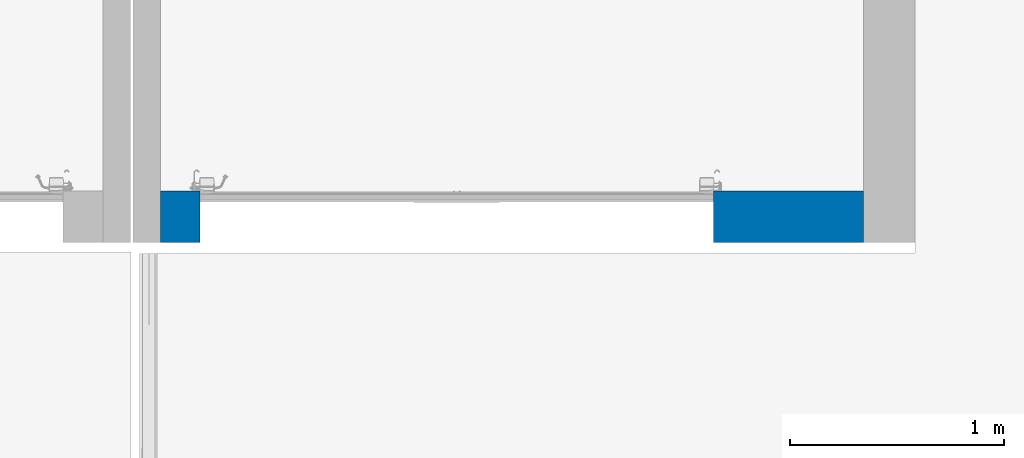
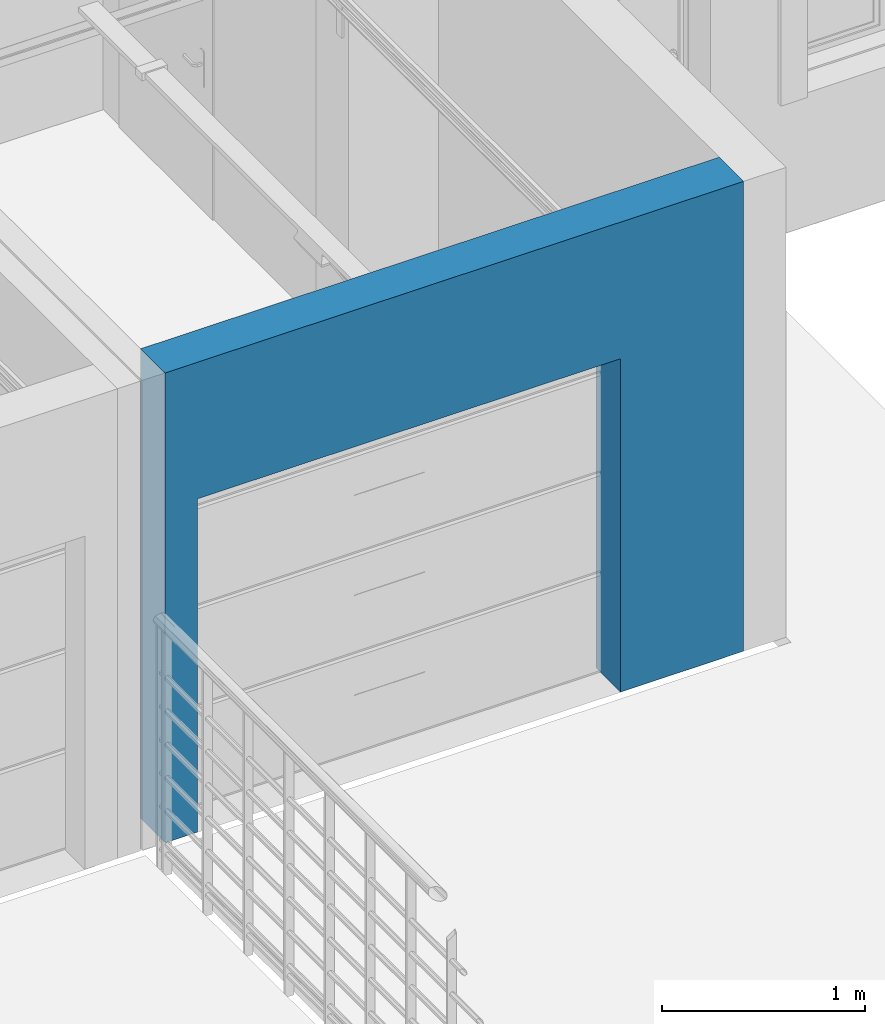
# One storey, part 6 of 30: 1 wall, 1 opening.
"""IFC2X3 building model written with IfcOpenShell, lengths in metres."""

import ifcopenshell
import ifcopenshell.guid

model = None  # the IFC model being written
_history = None  # IfcOwnerHistory: only IFC2X3 demands one
_inside = {}  # id of a spatial element -> (the spatial element, [elements in it])
_under = {}  # id of a project, library or spatial element -> (it, [spatial elements below it])
_declared = {}  # id of a project -> (the project, [libraries it declares])
_typed = {}  # id of a type object -> (the type object, [elements of that type])
_made_of = {}  # id of a material, layer set ... -> (it, [elements and type objects made of it])


def new_model(schema):
    """Start an empty IFC model of exactly this schema.

    Asked for "IFC4X3", IfcOpenShell would pick the latest addendum, in which some entities
    have other attributes; the version numbers below select the first issue.
    IFC2X3 requires an IfcOwnerHistory on every rooted entity: one is made here for all.
    """
    global model, _history
    if schema == "IFC4X3":
        model = ifcopenshell.file(schema_version=(4, 3, 0, 0))
    else:
        model = ifcopenshell.file(schema=schema)
    _inside.clear()
    _under.clear()
    _declared.clear()
    _typed.clear()
    _made_of.clear()
    _history = None
    if model.schema == "IFC2X3":
        org = make("IfcOrganization", Name="unknown")
        user = make(
            "IfcPersonAndOrganization",
            ThePerson=make("IfcPerson", FamilyName="unknown"),
            TheOrganization=org,
        )
        app = make(
            "IfcApplication",
            ApplicationDeveloper=org,
            Version="unknown",
            ApplicationFullName="unknown",
            ApplicationIdentifier="unknown",
        )
        _history = make(
            "IfcOwnerHistory",
            OwningUser=user,
            OwningApplication=app,
            ChangeAction="ADDED",
            CreationDate=0,
        )
    return model


def make(cls, **values):
    """One entity of the class cls with the attributes given. An attribute that is None is left unset."""
    return model.create_entity(
        cls, **{name: value for name, value in values.items() if value is not None}
    )


def entity(cls, *values):
    """Any entity or typed value of the class cls, its attributes in the order of the schema. None: left unset."""
    e = model.create_entity(cls)
    for i, value in enumerate(values):
        if value is not None:
            e[i] = value
    return e


def rooted(cls, **values):
    """An entity with a GlobalId (a new one), such as an element, a storey or a relation."""
    return make(cls, GlobalId=ifcopenshell.guid.new(), OwnerHistory=_history, **values)


def si_unit(unit_type, name, prefix=None):
    """IfcSIUnit, for example si_unit("LENGTHUNIT", "METRE", prefix="MILLI")."""
    return make("IfcSIUnit", UnitType=unit_type, Prefix=prefix, Name=name)


def converted_unit(unit_type, name, factor, base, dimensions=None, offset=None):
    """IfcConversionBasedUnit, such as the inch: factor (a typed value) times the base unit."""
    return make(
        "IfcConversionBasedUnit"
        if offset is None
        else "IfcConversionBasedUnitWithOffset",
        ConversionOffset=offset,
        Dimensions=None
        if dimensions is None
        else entity("IfcDimensionalExponents", *dimensions),
        UnitType=unit_type,
        Name=name,
        ConversionFactor=make(
            "IfcMeasureWithUnit", ValueComponent=factor, UnitComponent=base
        ),
    )


def derived_unit(unit_type, elements):
    """IfcDerivedUnit: a product of units, each with its exponent."""
    return make(
        "IfcDerivedUnit",
        Elements=[
            make("IfcDerivedUnitElement", Unit=unit, Exponent=power)
            for unit, power in elements
        ],
        UnitType=unit_type,
    )


def assignment(units):
    """IfcUnitAssignment: the units of a project."""
    return None if units is None else make("IfcUnitAssignment", Units=units)


def point(xyz):
    """IfcCartesianPoint."""
    return None if xyz is None else make("IfcCartesianPoint", Coordinates=xyz)


def direction(xyz):
    """IfcDirection."""
    return None if xyz is None else make("IfcDirection", DirectionRatios=xyz)


def frame(location, z_axis=None, x_axis=None):
    """IfcAxis2Placement3D, a coordinate frame: its origin and axes. An axis left out is left unset."""
    return make(
        "IfcAxis2Placement3D",
        Location=point(location),
        Axis=direction(z_axis),
        RefDirection=direction(x_axis),
    )


def frame_2d(location, x_axis=None):
    """IfcAxis2Placement2D, a coordinate frame in the plane: its origin and x axis."""
    return make(
        "IfcAxis2Placement2D", Location=point(location), RefDirection=direction(x_axis)
    )


def origin():
    """The frame at (0, 0, 0) with its axes left unset."""
    return frame((0.0, 0.0, 0.0))


def place(relative_to, where):
    """IfcLocalPlacement: puts the frame where relative to a parent placement (None: the world)."""
    return make(
        "IfcLocalPlacement", PlacementRelTo=relative_to, RelativePlacement=where
    )


def context(
    kind, dimensions, precision=None, world=None, true_north=None, identifier=None
):
    """IfcGeometricRepresentationContext, for example the 3D "Model" context."""
    return make(
        "IfcGeometricRepresentationContext",
        ContextIdentifier=identifier,
        ContextType=kind,
        CoordinateSpaceDimension=dimensions,
        Precision=precision,
        WorldCoordinateSystem=world,
        TrueNorth=true_north,
    )


def subcontext(parent, identifier, kind, view, scale=None):
    """IfcGeometricRepresentationSubContext, for example "Body" below "Model"."""
    return make(
        "IfcGeometricRepresentationSubContext",
        ContextIdentifier=identifier,
        ContextType=kind,
        ParentContext=parent,
        TargetScale=scale,
        TargetView=view,
    )


def project(units=None, contexts=None):
    """IfcProject with its units and contexts."""
    return rooted(
        "IfcProject",
        Name="project",
        RepresentationContexts=contexts,
        UnitsInContext=assignment(units),
    )


def spatial(cls, under=None, at=None, **own):
    """A site, building, storey or space (cls), placed at a placement, below another one or the project."""
    s = rooted(cls, ObjectPlacement=at, **own)
    if under is not None:
        _under.setdefault(under.id(), (under, []))[1].append(s)
    return s


def profile(cls, at=None, kind="AREA", **sizes):
    """A parametric profile (cls). Its sizes go by their IFC names, for example OverallWidth=200.0."""
    return make(cls, ProfileType=kind, Position=at, **sizes)


def rectangle(**sizes):
    """IfcRectangleProfileDef."""
    return profile("IfcRectangleProfileDef", **sizes)


def extrude(swept, where, along, depth):
    """IfcExtrudedAreaSolid: the profile swept, set in the frame where, extruded along a direction by depth."""
    return make(
        "IfcExtrudedAreaSolid",
        SweptArea=swept,
        Position=where,
        ExtrudedDirection=direction(along),
        Depth=depth,
    )


def shape(context_of_items, identifier, shape_type, items):
    """IfcShapeRepresentation: the items that make up one representation, for example the "Body"."""
    return make(
        "IfcShapeRepresentation",
        ContextOfItems=context_of_items,
        RepresentationIdentifier=identifier,
        RepresentationType=shape_type,
        Items=items,
    )


def material(Name=None, Category=None):
    """IfcMaterial."""
    return make("IfcMaterial", Name=Name, Category=Category)


def layer(
    of_material, thickness, ventilated=None, Name=None, Category=None, Priority=None
):
    """IfcMaterialLayer: one layer of a wall or slab, of a material (None: an air gap)."""
    return make(
        "IfcMaterialLayer",
        Material=of_material,
        LayerThickness=thickness,
        IsVentilated=ventilated,
        Name=Name,
        Category=Category,
        Priority=Priority,
    )


def layer_set(layers, Name=None):
    """IfcMaterialLayerSet."""
    return make("IfcMaterialLayerSet", MaterialLayers=layers, LayerSetName=Name)


def layer_usage(for_layer_set, set_direction, sense, offset, extent=None):
    """IfcMaterialLayerSetUsage: how a layer set lies in its element."""
    return make(
        "IfcMaterialLayerSetUsage",
        ForLayerSet=for_layer_set,
        LayerSetDirection=set_direction,
        DirectionSense=sense,
        OffsetFromReferenceLine=offset,
        ReferenceExtent=extent,
    )


def made_of(thing, what):
    """Note that an element or type object is made of a material, layer set ...; save() writes the relation."""
    if what is not None:
        _made_of.setdefault(what.id(), (what, []))[1].append(thing)
    return thing


def type_object(cls, material=None, **own):
    """A type object (cls), such as IfcWallType, which elements share."""
    return made_of(rooted(cls, **own), material)


def element(
    cls,
    number,
    at=None,
    inside=None,
    cuts=None,
    type_object=None,
    material=None,
    context=None,
    identifier="Body",
    shape_type=None,
    held_by="IfcProductDefinitionShape",
    body=None,
    shapes=None,
    **own,
):
    """One element of the class cls, such as IfcWall. Its Tag is "e" and its number.

    at: its placement. inside: the storey or other place that contains it. cuts: it is an
    opening in that element (IfcRelVoidsElement). A single representation is given by context,
    identifier, shape_type and body (its items); several are given by shapes. held_by: the class
    of the entity that holds the representations. save() writes the other relations.
    """
    e = rooted(cls, Tag="e%d" % number, ObjectPlacement=at, **own)
    if body is not None:
        shapes = [shape(context, identifier, shape_type, body)]
    if shapes is not None:
        e.Representation = make(held_by, Representations=shapes)
    if inside is not None:
        _inside.setdefault(inside.id(), (inside, []))[1].append(e)
    if cuts is not None:
        rooted(
            "IfcRelVoidsElement", RelatingBuildingElement=cuts, RelatedOpeningElement=e
        )
    if type_object is not None:
        _typed.setdefault(type_object.id(), (type_object, []))[1].append(e)
    return made_of(e, material)


def aggregate(whole, parts):
    """IfcRelAggregates: a whole, such as a stair, and the parts it consists of."""
    return rooted("IfcRelAggregates", RelatingObject=whole, RelatedObjects=parts)


def save(model, path):
    """Write the relations noted so far, then the file.

    IfcRelAggregates (storeys below a building ...), IfcRelContainedInSpatialStructure (elements
    in a storey), IfcRelDefinesByType, IfcRelAssociatesMaterial and IfcRelDeclares: one each for
    every whole, place, type object, material and project.
    """
    for whole, parts in _under.values():
        aggregate(whole, parts)
    for where, things in _inside.values():
        rooted(
            "IfcRelContainedInSpatialStructure",
            RelatedElements=things,
            RelatingStructure=where,
        )
    for kind, things in _typed.values():
        rooted("IfcRelDefinesByType", RelatedObjects=things, RelatingType=kind)
    for what, things in _made_of.values():
        rooted("IfcRelAssociatesMaterial", RelatedObjects=things, RelatingMaterial=what)
    for by, libraries in _declared.values():
        rooted("IfcRelDeclares", RelatingContext=by, RelatedDefinitions=libraries)
    model.write(path)


model = new_model("IFC2X3")

# Units and contexts
model_context = context("Model", 3, precision=1e-05, world=origin(), true_north=direction((6.12303176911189e-17, 1.0)))
body_context = subcontext(model_context, "Body", "Model", "MODEL_VIEW")
ifc_project = project(units=[si_unit("LENGTHUNIT", "METRE"), si_unit("AREAUNIT", "SQUARE_METRE"), si_unit("VOLUMEUNIT", "CUBIC_METRE"), converted_unit("PLANEANGLEUNIT", "DEGREE", entity("IfcRatioMeasure", 0.0174532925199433), si_unit("PLANEANGLEUNIT", "RADIAN"), dimensions=[0, 0, 0, 0, 0, 0, 0]), si_unit("MASSUNIT", "GRAM", prefix="KILO"), derived_unit("MASSDENSITYUNIT", [(si_unit("MASSUNIT", "GRAM", prefix="KILO"), 1), (si_unit("LENGTHUNIT", "METRE"), -3)]), si_unit("TIMEUNIT", "SECOND"), si_unit("FREQUENCYUNIT", "HERTZ"), si_unit("THERMODYNAMICTEMPERATUREUNIT", "DEGREE_CELSIUS"), derived_unit("THERMALTRANSMITTANCEUNIT", [(si_unit("MASSUNIT", "GRAM", prefix="KILO"), 1), (si_unit("THERMODYNAMICTEMPERATUREUNIT", "KELVIN"), -1), (si_unit("TIMEUNIT", "SECOND"), -3)]), derived_unit("VOLUMETRICFLOWRATEUNIT", [(si_unit("LENGTHUNIT", "METRE"), 3), (si_unit("TIMEUNIT", "SECOND"), -1)]), si_unit("ELECTRICCURRENTUNIT", "AMPERE"), si_unit("ELECTRICVOLTAGEUNIT", "VOLT"), si_unit("POWERUNIT", "WATT"), si_unit("FORCEUNIT", "NEWTON", prefix="KILO"), si_unit("ILLUMINANCEUNIT", "LUX"), si_unit("LUMINOUSFLUXUNIT", "LUMEN"), si_unit("LUMINOUSINTENSITYUNIT", "CANDELA"), derived_unit("USERDEFINED", [(si_unit("MASSUNIT", "GRAM", prefix="KILO"), -1), (si_unit("LENGTHUNIT", "METRE"), -2), (si_unit("TIMEUNIT", "SECOND"), 3), (si_unit("LUMINOUSFLUXUNIT", "LUMEN"), 1)]), derived_unit("LINEARVELOCITYUNIT", [(si_unit("LENGTHUNIT", "METRE"), 1), (si_unit("TIMEUNIT", "SECOND"), -1)]), si_unit("PRESSUREUNIT", "PASCAL"), derived_unit("USERDEFINED", [(si_unit("LENGTHUNIT", "METRE"), -2), (si_unit("MASSUNIT", "GRAM", prefix="KILO"), 1), (si_unit("TIMEUNIT", "SECOND"), -2)])], contexts=[model_context])

# Site, building, storey
site_placement = place(None, origin())
site = spatial("IfcSite", under=ifc_project, at=site_placement, Name="Surface", CompositionType="ELEMENT")
building_placement = place(site_placement, origin())
building = spatial("IfcBuilding", under=site, at=building_placement, CompositionType="ELEMENT")
storey_placement = place(building_placement, origin())
storey = spatial("IfcBuildingStorey", under=building, at=storey_placement, Name="Plan des fondations  Maisons 1 et 2", CompositionType="ELEMENT", Elevation=0.0)

# Wall, opening
ifc_material_1 = material(Name="Enduit  gris")
ifc_layer_1 = layer(ifc_material_1, 0.02)
ifc_material_2 = material(Name="Parpaing")
ifc_layer_2 = layer(ifc_material_2, 0.2)
ifc_layer_3 = layer(ifc_material_1, 0.02)
ifc_layer_set = layer_set([ifc_layer_1, ifc_layer_2, ifc_layer_3], Name="Mur de base:Ext. Parpaing 2 + 20 + 2 gris")
ifc_layer_usage = layer_usage(ifc_layer_set, "AXIS2", "NEGATIVE", 0.12)
wall_type = type_object("IfcWallType", Name="Mur de base:Ext. Parpaing 2 + 20 + 2 gris", PredefinedType="STANDARD", material=ifc_layer_set)
wall_placement = place(storey_placement, frame((68.9696263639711, 77.0077566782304, 0.0)))
wall = element("IfcWallStandardCase", 1, at=wall_placement, inside=storey, type_object=wall_type, material=ifc_layer_usage, Name="Mur de base:Ext. Parpaing 2 + 20 + 2 gris", ObjectType="Mur de base:Ext. Parpaing 2 + 20 + 2 gris", context=body_context, shape_type="SweptSolid", body=[
    extrude(rectangle(XDim=3.28499999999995, YDim=0.239999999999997, at=frame_2d((1.64249999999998, 0.0), x_axis=(-1.0, 0.0))), origin(), (0.0, 0.0, 1.0), 2.82),
])
opening_placement = place(wall_placement, frame((0.185000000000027, -0.12, 0.0)))
element("IfcOpeningElement", 2, at=opening_placement, cuts=wall, Name="Landscaping-Gates- La Toulousaine-La_Toulousaine-Porte_de_garage_HARMONIE_ESQUIF:Landscaping-Gates- La Toulousaine-La_Toulousaine-Porte_de_garage_HARMONIE_ESQUIF 2.00 larg x 2.40 ht:1", ObjectType="Opening", context=body_context, shape_type="SweptSolid", body=[
    extrude(rectangle(XDim=2.0, YDim=2.4, at=frame_2d((1.0, 1.2), x_axis=(1.0, 0.0))), frame((0.0, 0.0, 0.0), z_axis=(0.0, 1.0, 0.0), x_axis=(0.0, 0.0, 1.0)), (0.0, 0.0, 1.0), 0.24),
])

save(model, "model.ifc")
